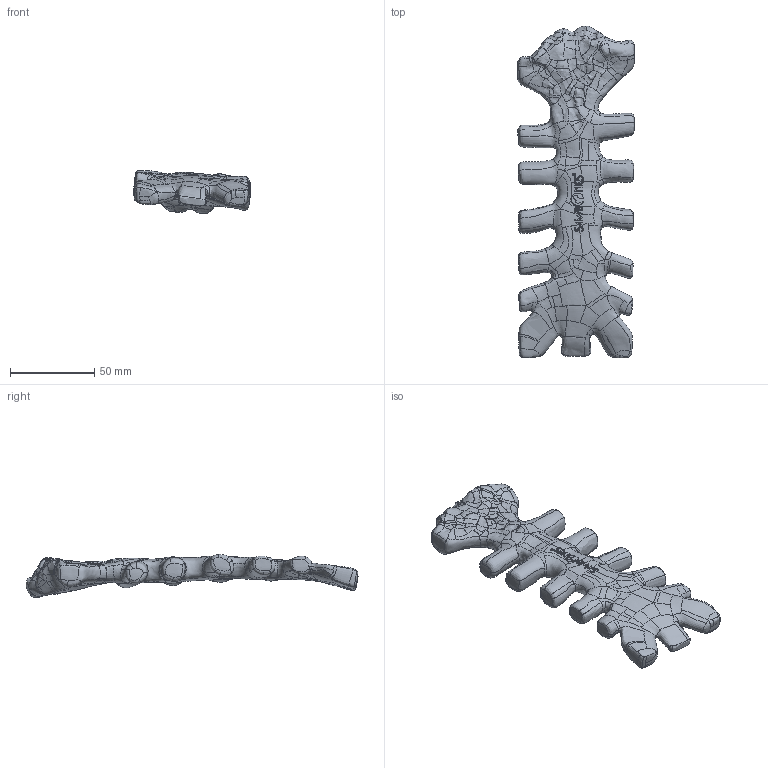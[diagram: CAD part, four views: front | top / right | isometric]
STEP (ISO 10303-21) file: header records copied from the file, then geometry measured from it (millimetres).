
FILE_DESCRIPTION (( 'STEP AP203' ), '1' );
FILE_NAME ('1025-1.STEP', '2025-05-01T19:42:34', ( '' ), ( '' ), 'SwSTEP 2.0', 'SolidWorks 2024', '' );
FILE_SCHEMA (( 'CONFIG_CONTROL_DESIGN' ));
Products named in the file (1): 1025-1
Bounding box: 69.15 x 196.97 x 25.55 mm (x, y, z)
Volume: 110210.6 mm3; surface area: 27276.7 mm2
Topology: 1 solids, 1 shells, 658 faces, 1696 edges, 1048 vertices
Faces by surface type: bspline 657, plane 1
Entity records: 313462 total; most frequent: CARTESIAN_POINT 302895, ORIENTED_EDGE 3392, EDGE_CURVE 1696, B_SPLINE_CURVE_WITH_KNOTS 1696, VERTEX_POINT 1048, EDGE_LOOP 666, ADVANCED_FACE 658, FACE_OUTER_BOUND 658
